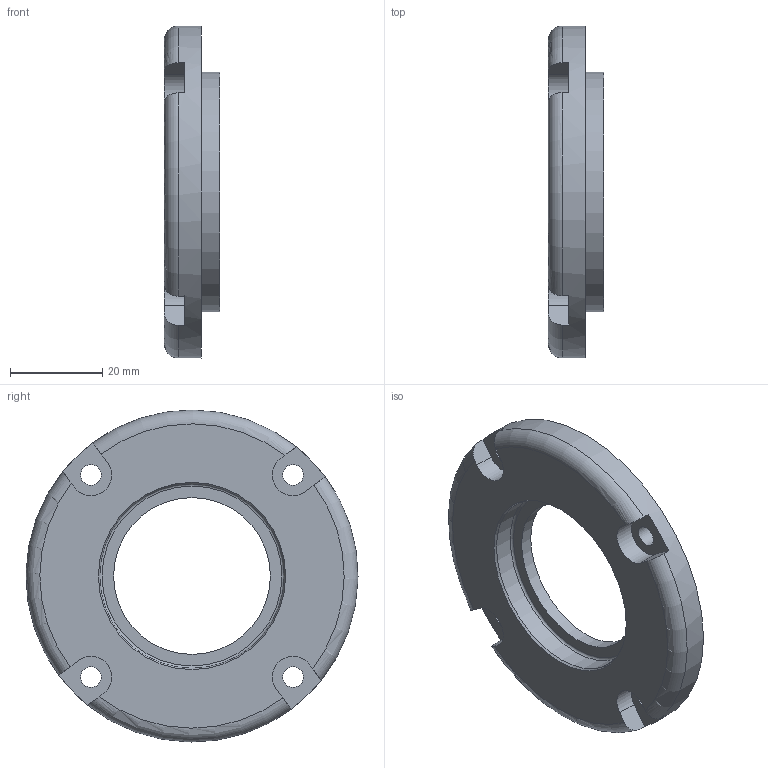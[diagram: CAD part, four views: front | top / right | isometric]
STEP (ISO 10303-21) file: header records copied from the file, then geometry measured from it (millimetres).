
FILE_DESCRIPTION(/* description */ (''),/* implementation_level */ '2;1');
FILE_NAME(/* name */ 'C:\Users\학생용.NET-PC\Desktop\390803E1022-커버.stp',/* time_stamp */ '2019-08-24T11:18:44+09:00',/* author */ ('학생용'),/* organization */ (''),/* preprocessor_version */ 'ST-DEVELOPER v15.2',/* originating_system */ 'Autodesk Inventor 2014',/* authorisation */ '');
FILE_SCHEMA (('AUTOMOTIVE_DESIGN { 1 0 10303 214 3 1 1 }'));
Length unit declared in the file: millimetre
Products named in the file (1): 커버
Bounding box: 12 x 72 x 72 mm (x, y, z)
Volume: 23679.9 mm3; surface area: 10145.6 mm2
Topology: 1 solids, 1 shells, 37 faces, 93 edges, 61 vertices
Faces by surface type: plane 17, cylinder 13, torus 6, cone 1
Full cylindrical faces by diameter (mm): 4.5 x4, 34 x1, 40 x1, 46 x1, 52 x1, 72 x1
Entity records: 1127 total; most frequent: CARTESIAN_POINT 214, DIRECTION 196, ORIENTED_EDGE 160, AXIS2_PLACEMENT_3D 82, EDGE_CURVE 80, EDGE_LOOP 62, VERTEX_POINT 60, CIRCLE 44
